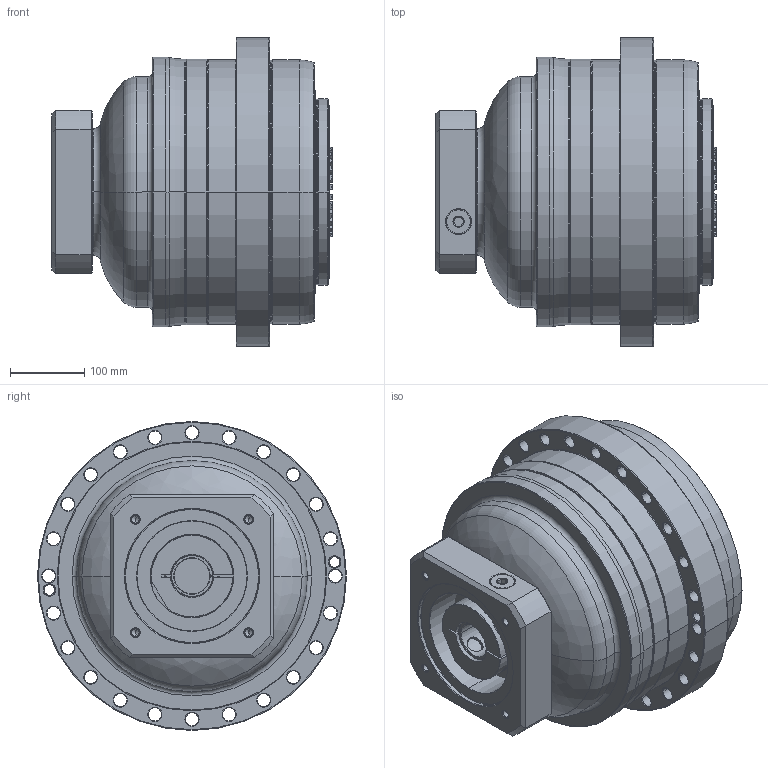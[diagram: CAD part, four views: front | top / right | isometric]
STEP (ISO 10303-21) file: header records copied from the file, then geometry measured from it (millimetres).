
FILE_DESCRIPTION((''),'2;1');
FILE_NAME('APC355_2ST_48-P0409B50201_ASM','2018-06-29T',('d01226'),(''),'PRO/ENGINEER BY PARAMETRIC TECHNOLOGY CORPORATION, 2008410','PRO/ENGINEER BY PARAMETRIC TECHNOLOGY CORPORATION, 2008410','');
FILE_SCHEMA(('CONFIG_CONTROL_DESIGN'));
Length unit declared in the file: millimetre
Products named in the file (9): P0276101003; P03571G0103; P1339110101; P0503B00016; P0962103001; P1222100001; P0409B50201; 21711426021; APC355_2ST_48-P0409B50201_ASM
Assembly tree (8 placements, depth 2):
  APC355_2ST_48-P0409B50201_ASM
    P0276101003
    P03571G0103
    P1339110101
    P0503B00016
    P0962103001
    P1222100001
    P0409B50201
    21711426021
Bounding box: 376.6 x 415 x 415 mm (x, y, z)
Volume: 33969954.8 mm3; surface area: 1372065.2 mm2
Topology: 9 solids, 22 shells, 870 faces, 2137 edges, 1305 vertices
Faces by surface type: cone 282, cylinder 254, plane 164, torus 156, bspline 14
Entity records: 32173 total; most frequent: CARTESIAN_POINT 11249, DIRECTION 4665, ORIENTED_EDGE 4172, EDGE_CURVE 2111, AXIS2_PLACEMENT_3D 2032, VERTEX_POINT 1305, CIRCLE 1147, EDGE_LOOP 982
